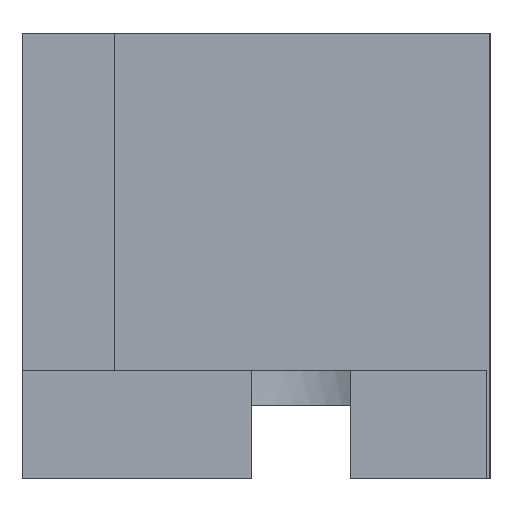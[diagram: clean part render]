
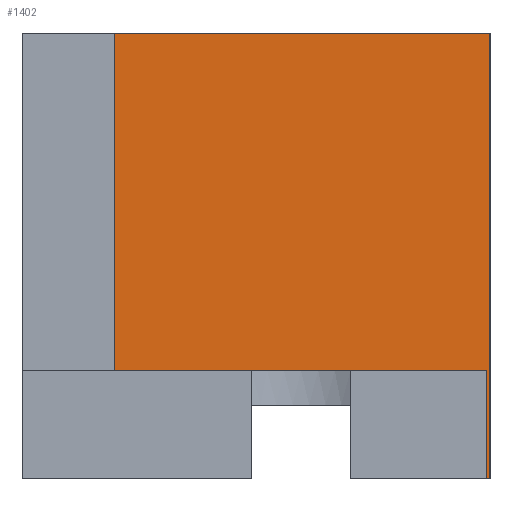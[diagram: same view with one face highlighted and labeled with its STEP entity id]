
A CAD part, left-side view. The second image highlights one B-rep face of the part: STEP entity #1402.
In plain terms, the highlighted planar face has unit normal (-1, 0, 0).
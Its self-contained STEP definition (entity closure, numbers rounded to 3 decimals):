
#90 = PLANE('',#91);
#91 = AXIS2_PLACEMENT_3D('',#92,#93,#94);
#92 = CARTESIAN_POINT('',(-49.,-6.,3.5));
#93 = DIRECTION('',(0.,0.,1.));
#94 = DIRECTION('',(1.,0.,-0.));
#146 = PLANE('',#147);
#147 = AXIS2_PLACEMENT_3D('',#148,#149,#150);
#148 = CARTESIAN_POINT('',(-45.,6.,14.38));
#149 = DIRECTION('',(0.,0.,1.));
#150 = DIRECTION('',(1.,0.,-0.));
#348 = VERTEX_POINT('',#349);
#349 = CARTESIAN_POINT('',(-43.,1.6,3.5));
#370 = EDGE_CURVE('',#348,#371,#373,.T.);
#371 = VERTEX_POINT('',#372);
#372 = CARTESIAN_POINT('',(-43.,6.,3.5));
#373 = SURFACE_CURVE('',#374,(#378,#385),.PCURVE_S1.);
#374 = LINE('',#375,#376);
#375 = CARTESIAN_POINT('',(-43.,-6.,3.5));
#376 = VECTOR('',#377,1.);
#377 = DIRECTION('',(-0.,1.,0.));
#378 = PCURVE('',#90,#379);
#379 = DEFINITIONAL_REPRESENTATION('',(#380),#384);
#380 = LINE('',#381,#382);
#381 = CARTESIAN_POINT('',(6.,0.));
#382 = VECTOR('',#383,1.);
#383 = DIRECTION('',(0.,1.));
#384 = ( GEOMETRIC_REPRESENTATION_CONTEXT(2) 
PARAMETRIC_REPRESENTATION_CONTEXT() REPRESENTATION_CONTEXT('2D SPACE',''
  ) );
#385 = PCURVE('',#386,#391);
#386 = PLANE('',#387);
#387 = AXIS2_PLACEMENT_3D('',#388,#389,#390);
#388 = CARTESIAN_POINT('',(-43.,-6.1,0.));
#389 = DIRECTION('',(1.,0.,-0.));
#390 = DIRECTION('',(0.,0.,1.));
#391 = DEFINITIONAL_REPRESENTATION('',(#392),#396);
#392 = LINE('',#393,#394);
#393 = CARTESIAN_POINT('',(3.5,-0.1));
#394 = VECTOR('',#395,1.);
#395 = DIRECTION('',(0.,-1.));
#396 = ( GEOMETRIC_REPRESENTATION_CONTEXT(2) 
PARAMETRIC_REPRESENTATION_CONTEXT() REPRESENTATION_CONTEXT('2D SPACE',''
  ) );
#413 = PLANE('',#414);
#414 = AXIS2_PLACEMENT_3D('',#415,#416,#417);
#415 = CARTESIAN_POINT('',(-45.,6.,0.));
#416 = DIRECTION('',(-0.,1.,0.));
#417 = DIRECTION('',(0.,0.,1.));
#498 = VERTEX_POINT('',#499);
#499 = CARTESIAN_POINT('',(-43.,6.,14.38));
#520 = EDGE_CURVE('',#521,#498,#523,.T.);
#521 = VERTEX_POINT('',#522);
#522 = CARTESIAN_POINT('',(-43.,-6.1,14.38));
#523 = SURFACE_CURVE('',#524,(#528,#535),.PCURVE_S1.);
#524 = LINE('',#525,#526);
#525 = CARTESIAN_POINT('',(-43.,-6.1,14.38));
#526 = VECTOR('',#527,1.);
#527 = DIRECTION('',(-0.,1.,0.));
#528 = PCURVE('',#146,#529);
#529 = DEFINITIONAL_REPRESENTATION('',(#530),#534);
#530 = LINE('',#531,#532);
#531 = CARTESIAN_POINT('',(2.,-12.1));
#532 = VECTOR('',#533,1.);
#533 = DIRECTION('',(0.,1.));
#534 = ( GEOMETRIC_REPRESENTATION_CONTEXT(2) 
PARAMETRIC_REPRESENTATION_CONTEXT() REPRESENTATION_CONTEXT('2D SPACE',''
  ) );
#535 = PCURVE('',#386,#536);
#536 = DEFINITIONAL_REPRESENTATION('',(#537),#541);
#537 = LINE('',#538,#539);
#538 = CARTESIAN_POINT('',(14.38,0.));
#539 = VECTOR('',#540,1.);
#540 = DIRECTION('',(0.,-1.));
#541 = ( GEOMETRIC_REPRESENTATION_CONTEXT(2) 
PARAMETRIC_REPRESENTATION_CONTEXT() REPRESENTATION_CONTEXT('2D SPACE',''
  ) );
#559 = PLANE('',#560);
#560 = AXIS2_PLACEMENT_3D('',#561,#562,#563);
#561 = CARTESIAN_POINT('',(-43.,-6.1,0.));
#562 = DIRECTION('',(-0.,1.,0.));
#563 = DIRECTION('',(0.,0.,1.));
#1190 = VERTEX_POINT('',#1191);
#1191 = CARTESIAN_POINT('',(-43.,-1.6,3.5));
#1206 = PLANE('',#1207);
#1207 = AXIS2_PLACEMENT_3D('',#1208,#1209,#1210);
#1208 = CARTESIAN_POINT('',(-46.,0.,3.5));
#1209 = DIRECTION('',(0.,0.,1.));
#1210 = DIRECTION('',(1.,0.,-0.));
#1234 = PLANE('',#1235);
#1235 = AXIS2_PLACEMENT_3D('',#1236,#1237,#1238);
#1236 = CARTESIAN_POINT('',(-49.,-6.,3.5));
#1237 = DIRECTION('',(0.,0.,1.));
#1238 = DIRECTION('',(1.,0.,-0.));
#1289 = PLANE('',#1290);
#1290 = AXIS2_PLACEMENT_3D('',#1291,#1292,#1293);
#1291 = CARTESIAN_POINT('',(-45.,6.,0.));
#1292 = DIRECTION('',(0.,0.,1.));
#1293 = DIRECTION('',(1.,0.,-0.));
#1384 = EDGE_CURVE('',#498,#371,#1385,.T.);
#1385 = SURFACE_CURVE('',#1386,(#1390,#1396),.PCURVE_S1.);
#1386 = LINE('',#1387,#1388);
#1387 = CARTESIAN_POINT('',(-43.,6.,0.));
#1388 = VECTOR('',#1389,1.);
#1389 = DIRECTION('',(-0.,0.,-1.));
#1390 = PCURVE('',#413,#1391);
#1391 = DEFINITIONAL_REPRESENTATION('',(#1392),#1395);
#1392 = B_SPLINE_CURVE_WITH_KNOTS('',1,(#1393,#1394),.UNSPECIFIED.,.F.,
  .F.,(2,2),(-14.38,0.),.PIECEWISE_BEZIER_KNOTS.);
#1393 = CARTESIAN_POINT('',(14.38,2.));
#1394 = CARTESIAN_POINT('',(0.,2.));
#1395 = ( GEOMETRIC_REPRESENTATION_CONTEXT(2) 
PARAMETRIC_REPRESENTATION_CONTEXT() REPRESENTATION_CONTEXT('2D SPACE',''
  ) );
#1396 = PCURVE('',#386,#1397);
#1397 = DEFINITIONAL_REPRESENTATION('',(#1398),#1401);
#1398 = B_SPLINE_CURVE_WITH_KNOTS('',1,(#1399,#1400),.UNSPECIFIED.,.F.,
  .F.,(2,2),(-14.38,0.),.PIECEWISE_BEZIER_KNOTS.);
#1399 = CARTESIAN_POINT('',(14.38,-12.1));
#1400 = CARTESIAN_POINT('',(0.,-12.1));
#1401 = ( GEOMETRIC_REPRESENTATION_CONTEXT(2) 
PARAMETRIC_REPRESENTATION_CONTEXT() REPRESENTATION_CONTEXT('2D SPACE',''
  ) );
#1402 = ADVANCED_FACE('',(#1403),#386,.F.);
#1403 = FACE_BOUND('',#1404,.F.);
#1404 = EDGE_LOOP('',(#1405,#1406,#1429,#1452,#1480,#1501,#1522,#1523));
#1405 = ORIENTED_EDGE('',*,*,#520,.F.);
#1406 = ORIENTED_EDGE('',*,*,#1407,.F.);
#1407 = EDGE_CURVE('',#1408,#521,#1410,.T.);
#1408 = VERTEX_POINT('',#1409);
#1409 = CARTESIAN_POINT('',(-43.,-6.1,0.));
#1410 = SURFACE_CURVE('',#1411,(#1415,#1422),.PCURVE_S1.);
#1411 = LINE('',#1412,#1413);
#1412 = CARTESIAN_POINT('',(-43.,-6.1,0.));
#1413 = VECTOR('',#1414,1.);
#1414 = DIRECTION('',(0.,0.,1.));
#1415 = PCURVE('',#386,#1416);
#1416 = DEFINITIONAL_REPRESENTATION('',(#1417),#1421);
#1417 = LINE('',#1418,#1419);
#1418 = CARTESIAN_POINT('',(0.,0.));
#1419 = VECTOR('',#1420,1.);
#1420 = DIRECTION('',(1.,0.));
#1421 = ( GEOMETRIC_REPRESENTATION_CONTEXT(2) 
PARAMETRIC_REPRESENTATION_CONTEXT() REPRESENTATION_CONTEXT('2D SPACE',''
  ) );
#1422 = PCURVE('',#559,#1423);
#1423 = DEFINITIONAL_REPRESENTATION('',(#1424),#1428);
#1424 = LINE('',#1425,#1426);
#1425 = CARTESIAN_POINT('',(0.,0.));
#1426 = VECTOR('',#1427,1.);
#1427 = DIRECTION('',(1.,0.));
#1428 = ( GEOMETRIC_REPRESENTATION_CONTEXT(2) 
PARAMETRIC_REPRESENTATION_CONTEXT() REPRESENTATION_CONTEXT('2D SPACE',''
  ) );
#1429 = ORIENTED_EDGE('',*,*,#1430,.T.);
#1430 = EDGE_CURVE('',#1408,#1431,#1433,.T.);
#1431 = VERTEX_POINT('',#1432);
#1432 = CARTESIAN_POINT('',(-43.,-6.,0.));
#1433 = SURFACE_CURVE('',#1434,(#1438,#1445),.PCURVE_S1.);
#1434 = LINE('',#1435,#1436);
#1435 = CARTESIAN_POINT('',(-43.,-6.1,0.));
#1436 = VECTOR('',#1437,1.);
#1437 = DIRECTION('',(-0.,1.,0.));
#1438 = PCURVE('',#386,#1439);
#1439 = DEFINITIONAL_REPRESENTATION('',(#1440),#1444);
#1440 = LINE('',#1441,#1442);
#1441 = CARTESIAN_POINT('',(0.,0.));
#1442 = VECTOR('',#1443,1.);
#1443 = DIRECTION('',(0.,-1.));
#1444 = ( GEOMETRIC_REPRESENTATION_CONTEXT(2) 
PARAMETRIC_REPRESENTATION_CONTEXT() REPRESENTATION_CONTEXT('2D SPACE',''
  ) );
#1445 = PCURVE('',#1289,#1446);
#1446 = DEFINITIONAL_REPRESENTATION('',(#1447),#1451);
#1447 = LINE('',#1448,#1449);
#1448 = CARTESIAN_POINT('',(2.,-12.1));
#1449 = VECTOR('',#1450,1.);
#1450 = DIRECTION('',(0.,1.));
#1451 = ( GEOMETRIC_REPRESENTATION_CONTEXT(2) 
PARAMETRIC_REPRESENTATION_CONTEXT() REPRESENTATION_CONTEXT('2D SPACE',''
  ) );
#1452 = ORIENTED_EDGE('',*,*,#1453,.T.);
#1453 = EDGE_CURVE('',#1431,#1454,#1456,.T.);
#1454 = VERTEX_POINT('',#1455);
#1455 = CARTESIAN_POINT('',(-43.,-6.,3.5));
#1456 = SURFACE_CURVE('',#1457,(#1461,#1468),.PCURVE_S1.);
#1457 = LINE('',#1458,#1459);
#1458 = CARTESIAN_POINT('',(-43.,-6.,0.));
#1459 = VECTOR('',#1460,1.);
#1460 = DIRECTION('',(0.,0.,1.));
#1461 = PCURVE('',#386,#1462);
#1462 = DEFINITIONAL_REPRESENTATION('',(#1463),#1467);
#1463 = LINE('',#1464,#1465);
#1464 = CARTESIAN_POINT('',(0.,-0.1));
#1465 = VECTOR('',#1466,1.);
#1466 = DIRECTION('',(1.,0.));
#1467 = ( GEOMETRIC_REPRESENTATION_CONTEXT(2) 
PARAMETRIC_REPRESENTATION_CONTEXT() REPRESENTATION_CONTEXT('2D SPACE',''
  ) );
#1468 = PCURVE('',#1469,#1474);
#1469 = PLANE('',#1470);
#1470 = AXIS2_PLACEMENT_3D('',#1471,#1472,#1473);
#1471 = CARTESIAN_POINT('',(-49.,-6.,0.));
#1472 = DIRECTION('',(-0.,1.,0.));
#1473 = DIRECTION('',(0.,0.,1.));
#1474 = DEFINITIONAL_REPRESENTATION('',(#1475),#1479);
#1475 = LINE('',#1476,#1477);
#1476 = CARTESIAN_POINT('',(0.,6.));
#1477 = VECTOR('',#1478,1.);
#1478 = DIRECTION('',(1.,0.));
#1479 = ( GEOMETRIC_REPRESENTATION_CONTEXT(2) 
PARAMETRIC_REPRESENTATION_CONTEXT() REPRESENTATION_CONTEXT('2D SPACE',''
  ) );
#1480 = ORIENTED_EDGE('',*,*,#1481,.T.);
#1481 = EDGE_CURVE('',#1454,#1190,#1482,.T.);
#1482 = SURFACE_CURVE('',#1483,(#1487,#1494),.PCURVE_S1.);
#1483 = LINE('',#1484,#1485);
#1484 = CARTESIAN_POINT('',(-43.,-6.,3.5));
#1485 = VECTOR('',#1486,1.);
#1486 = DIRECTION('',(-0.,1.,0.));
#1487 = PCURVE('',#386,#1488);
#1488 = DEFINITIONAL_REPRESENTATION('',(#1489),#1493);
#1489 = LINE('',#1490,#1491);
#1490 = CARTESIAN_POINT('',(3.5,-0.1));
#1491 = VECTOR('',#1492,1.);
#1492 = DIRECTION('',(0.,-1.));
#1493 = ( GEOMETRIC_REPRESENTATION_CONTEXT(2) 
PARAMETRIC_REPRESENTATION_CONTEXT() REPRESENTATION_CONTEXT('2D SPACE',''
  ) );
#1494 = PCURVE('',#1234,#1495);
#1495 = DEFINITIONAL_REPRESENTATION('',(#1496),#1500);
#1496 = LINE('',#1497,#1498);
#1497 = CARTESIAN_POINT('',(6.,0.));
#1498 = VECTOR('',#1499,1.);
#1499 = DIRECTION('',(0.,1.));
#1500 = ( GEOMETRIC_REPRESENTATION_CONTEXT(2) 
PARAMETRIC_REPRESENTATION_CONTEXT() REPRESENTATION_CONTEXT('2D SPACE',''
  ) );
#1501 = ORIENTED_EDGE('',*,*,#1502,.T.);
#1502 = EDGE_CURVE('',#1190,#348,#1503,.T.);
#1503 = SURFACE_CURVE('',#1504,(#1508,#1515),.PCURVE_S1.);
#1504 = LINE('',#1505,#1506);
#1505 = CARTESIAN_POINT('',(-43.,-6.,3.5));
#1506 = VECTOR('',#1507,1.);
#1507 = DIRECTION('',(-0.,1.,0.));
#1508 = PCURVE('',#386,#1509);
#1509 = DEFINITIONAL_REPRESENTATION('',(#1510),#1514);
#1510 = LINE('',#1511,#1512);
#1511 = CARTESIAN_POINT('',(3.5,-0.1));
#1512 = VECTOR('',#1513,1.);
#1513 = DIRECTION('',(0.,-1.));
#1514 = ( GEOMETRIC_REPRESENTATION_CONTEXT(2) 
PARAMETRIC_REPRESENTATION_CONTEXT() REPRESENTATION_CONTEXT('2D SPACE',''
  ) );
#1515 = PCURVE('',#1206,#1516);
#1516 = DEFINITIONAL_REPRESENTATION('',(#1517),#1521);
#1517 = LINE('',#1518,#1519);
#1518 = CARTESIAN_POINT('',(3.,-6.));
#1519 = VECTOR('',#1520,1.);
#1520 = DIRECTION('',(0.,1.));
#1521 = ( GEOMETRIC_REPRESENTATION_CONTEXT(2) 
PARAMETRIC_REPRESENTATION_CONTEXT() REPRESENTATION_CONTEXT('2D SPACE',''
  ) );
#1522 = ORIENTED_EDGE('',*,*,#370,.T.);
#1523 = ORIENTED_EDGE('',*,*,#1384,.F.);
